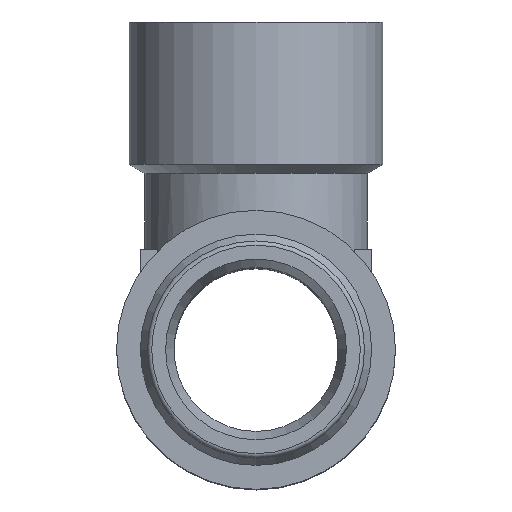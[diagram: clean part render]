
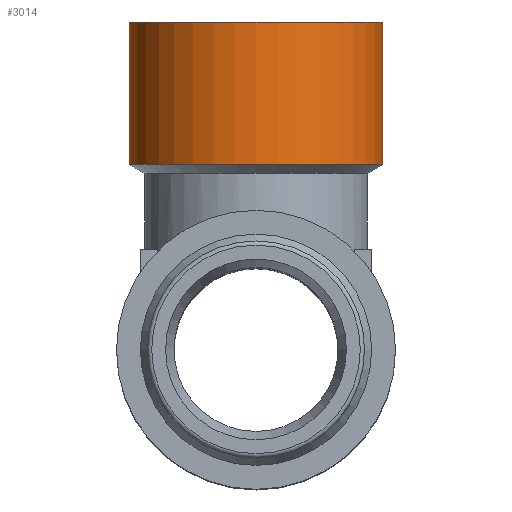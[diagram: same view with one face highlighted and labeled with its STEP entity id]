
A CAD part, top view. The second image highlights one B-rep face of the part: STEP entity #3014.
In plain terms, the highlighted cylindrical face has radius 15.1 mm (diameter 30.2 mm), a full revolution.
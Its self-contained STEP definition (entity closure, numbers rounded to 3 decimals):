
#83=CYLINDRICAL_SURFACE('',#3216,15.1);
#136=CIRCLE('',#3212,15.1);
#137=CIRCLE('',#3213,15.1);
#140=CIRCLE('',#3217,15.1);
#141=CIRCLE('',#3218,15.1);
#431=FACE_OUTER_BOUND('',#599,.T.);
#599=EDGE_LOOP('',(#2095,#2096,#2097,#2098,#2099,#2100));
#826=LINE('',#4771,#1025);
#1025=VECTOR('',#3685,15.1);
#1228=VERTEX_POINT('',#4758);
#1229=VERTEX_POINT('',#4759);
#1232=VERTEX_POINT('',#4767);
#1233=VERTEX_POINT('',#4768);
#1582=EDGE_CURVE('',#1228,#1229,#136,.T.);
#1583=EDGE_CURVE('',#1229,#1228,#137,.T.);
#1586=EDGE_CURVE('',#1232,#1233,#140,.T.);
#1587=EDGE_CURVE('',#1233,#1232,#141,.T.);
#1588=EDGE_CURVE('',#1233,#1229,#826,.T.);
#2095=ORIENTED_EDGE('',*,*,#1586,.F.);
#2096=ORIENTED_EDGE('',*,*,#1587,.F.);
#2097=ORIENTED_EDGE('',*,*,#1588,.T.);
#2098=ORIENTED_EDGE('',*,*,#1583,.T.);
#2099=ORIENTED_EDGE('',*,*,#1582,.T.);
#2100=ORIENTED_EDGE('',*,*,#1588,.F.);
#3014=ADVANCED_FACE('',(#431),#83,.T.);
#3212=AXIS2_PLACEMENT_3D('',#4760,#3671,#3672);
#3213=AXIS2_PLACEMENT_3D('',#4761,#3673,#3674);
#3216=AXIS2_PLACEMENT_3D('',#4766,#3679,#3680);
#3217=AXIS2_PLACEMENT_3D('',#4769,#3681,#3682);
#3218=AXIS2_PLACEMENT_3D('',#4770,#3683,#3684);
#3671=DIRECTION('center_axis',(0.,-1.,0.));
#3672=DIRECTION('ref_axis',(1.,0.,0.));
#3673=DIRECTION('center_axis',(0.,-1.,0.));
#3674=DIRECTION('ref_axis',(1.,0.,0.));
#3679=DIRECTION('center_axis',(0.,-1.,0.));
#3680=DIRECTION('ref_axis',(0.,0.,-1.));
#3681=DIRECTION('center_axis',(0.,-1.,0.));
#3682=DIRECTION('ref_axis',(1.,0.,0.));
#3683=DIRECTION('center_axis',(0.,-1.,0.));
#3684=DIRECTION('ref_axis',(1.,0.,0.));
#3685=DIRECTION('',(0.,1.,0.));
#4758=CARTESIAN_POINT('',(0.,39.,36.4));
#4759=CARTESIAN_POINT('',(0.,39.,66.6));
#4760=CARTESIAN_POINT('Origin',(0.,39.,51.5));
#4761=CARTESIAN_POINT('Origin',(0.,39.,51.5));
#4766=CARTESIAN_POINT('Origin',(0.,30.534,51.5));
#4767=CARTESIAN_POINT('',(0.,22.068,36.4));
#4768=CARTESIAN_POINT('',(0.,22.068,66.6));
#4769=CARTESIAN_POINT('Origin',(0.,22.068,51.5));
#4770=CARTESIAN_POINT('Origin',(0.,22.068,51.5));
#4771=CARTESIAN_POINT('',(0.,30.534,66.6));
